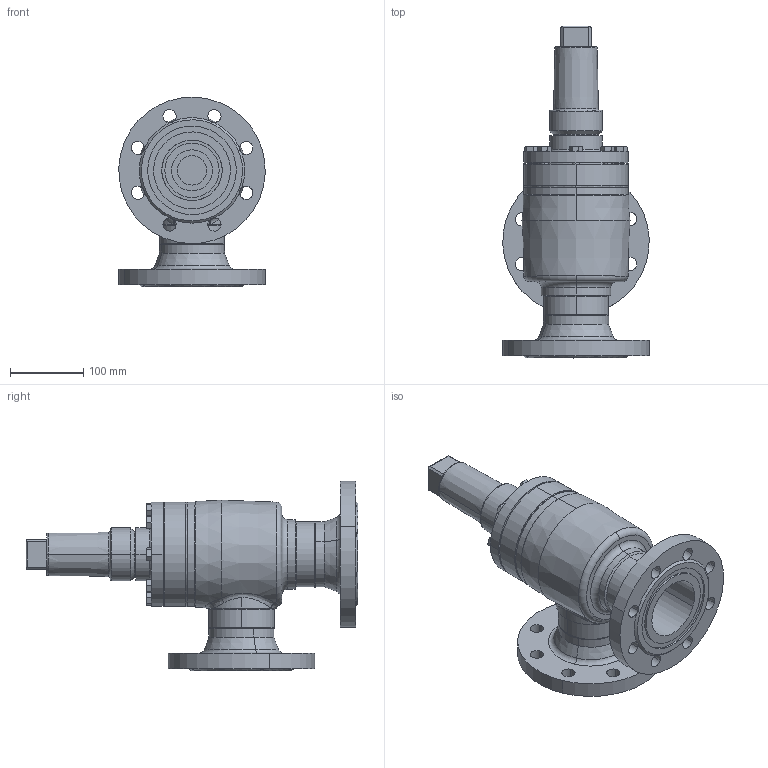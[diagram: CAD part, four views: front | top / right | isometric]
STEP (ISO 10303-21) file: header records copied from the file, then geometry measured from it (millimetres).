
FILE_DESCRIPTION (( 'STEP AP214' ), '1' );
FILE_NAME ('AVR26420D18-DN080_DIN-FL-N_PS40.STEP', '2007-01-08T07:19:17', ( 'Herr Grams' ), ( 'AWP GmbH' ), 'SwSTEP 2.0', 'SolidWorks 2002296', '' );
FILE_SCHEMA (( 'AUTOMOTIVE_DESIGN' ));
Length unit declared in the file: millimetre
Products named in the file (13): AVR26420D18-DN080_DIN-FL-N_PS40; Kappe16402_DN080-100_Standard; Gehäuse-kpl16420-DN080_DIN_PS40_Standard; Gehäuse-kpl16400-DN080_R1_Standard; Gehäuse16400-DN080_Standard; Kopfstück16300-DN080_Standard; bead-DN080-1_Standard; Flansch-DIN-Nut_PS40_DIN-Flansch-DN080_PS40-Nut; bead-DN080-3_Standard; bead-DN080-4_Standard; AVR26300E18_Deck+Schr-DN80_Standard; Deckel26300E18-DN80_Standard; Sechskantschraube-DIN933_M10x 30
Assembly tree (20 placements, depth 4):
  AVR26420D18-DN080_DIN-FL-N_PS40
    Gehäuse-kpl16420-DN080_DIN_PS40_Standard
      bead-DN080-4_Standard
      Flansch-DIN-Nut_PS40_DIN-Flansch-DN080_PS40-Nut  x2
      bead-DN080-3_Standard
      Gehäuse-kpl16400-DN080_R1_Standard
        bead-DN080-1_Standard
        Kopfstück16300-DN080_Standard
        Gehäuse16400-DN080_Standard
    AVR26300E18_Deck+Schr-DN80_Standard
      Sechskantschraube-DIN933_M10x 30  x8
      Deckel26300E18-DN80_Standard
    Kappe16402_DN080-100_Standard
Bounding box: 199.81 x 453 x 258.9 mm (x, y, z)
Volume: 3116126.9 mm3; surface area: 547543.7 mm2
Topology: 17 solids, 17 shells, 445 faces, 1018 edges, 623 vertices
Faces by surface type: cylinder 148, cone 141, plane 120, bspline 20, torus 16
Entity records: 19633 total; most frequent: CARTESIAN_POINT 13378, DIRECTION 1195, ORIENTED_EDGE 1080, EDGE_CURVE 540, AXIS2_PLACEMENT_3D 523, VERTEX_POINT 339, EDGE_LOOP 291, CIRCLE 285
